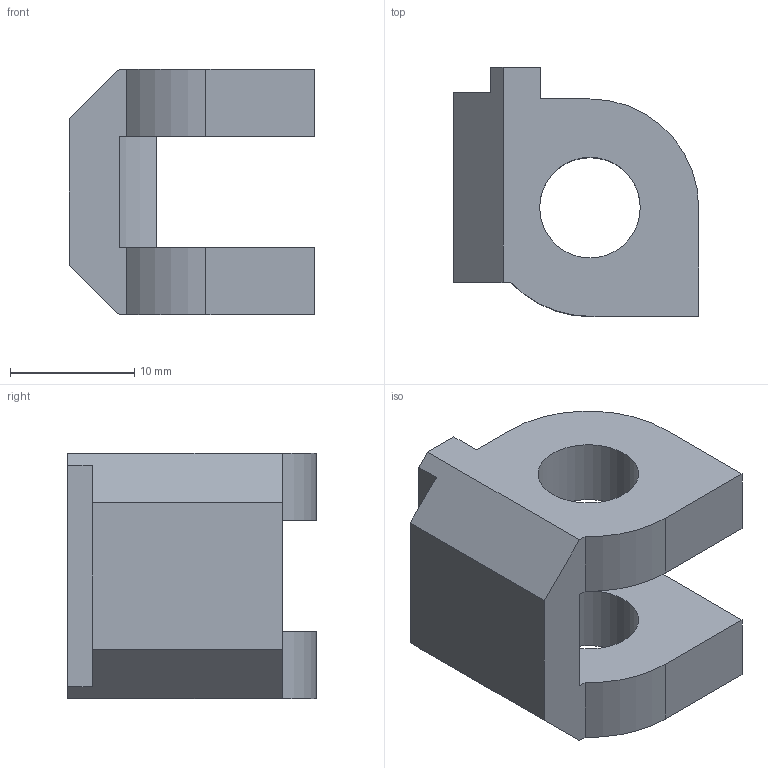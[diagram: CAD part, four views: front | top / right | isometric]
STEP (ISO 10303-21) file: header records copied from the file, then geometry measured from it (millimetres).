
FILE_DESCRIPTION(/* description */ (''),/* implementation_level */ '2;1');
FILE_NAME(/* name */ 'C:/Users/Owner/Desktop/K-CAD Songbird PM4 Centerfire/STEP/Songbird PM4Centerfire Firing Pin Retainer.step',/* time_stamp */ '2020-12-06T00:31:14-05:00',/* author */ (''),/* organization */ (''),/* preprocessor_version */ 'ST-DEVELOPER v18.1',/* originating_system */ 'Autodesk Translation Framework v9.3.0.1241',/* authorisation */ '');
FILE_SCHEMA (('AUTOMOTIVE_DESIGN { 1 0 10303 214 3 1 1 }'));
Length unit declared in the file: millimetre
Products named in the file (1): Songbird PM4C Firing Pin Retainer
Bounding box: 19.75 x 20.05 x 19.8 mm (x, y, z)
Volume: 3264 mm3; surface area: 2353.1 mm2
Topology: 1 solids, 1 shells, 26 faces, 72 edges, 48 vertices
Faces by surface type: plane 19, cylinder 7
Full cylindrical faces by diameter (mm): 8.1 x2
Entity records: 878 total; most frequent: CARTESIAN_POINT 147, ORIENTED_EDGE 144, DIRECTION 140, EDGE_CURVE 72, LINE 58, VECTOR 58, VERTEX_POINT 48, AXIS2_PLACEMENT_3D 41
